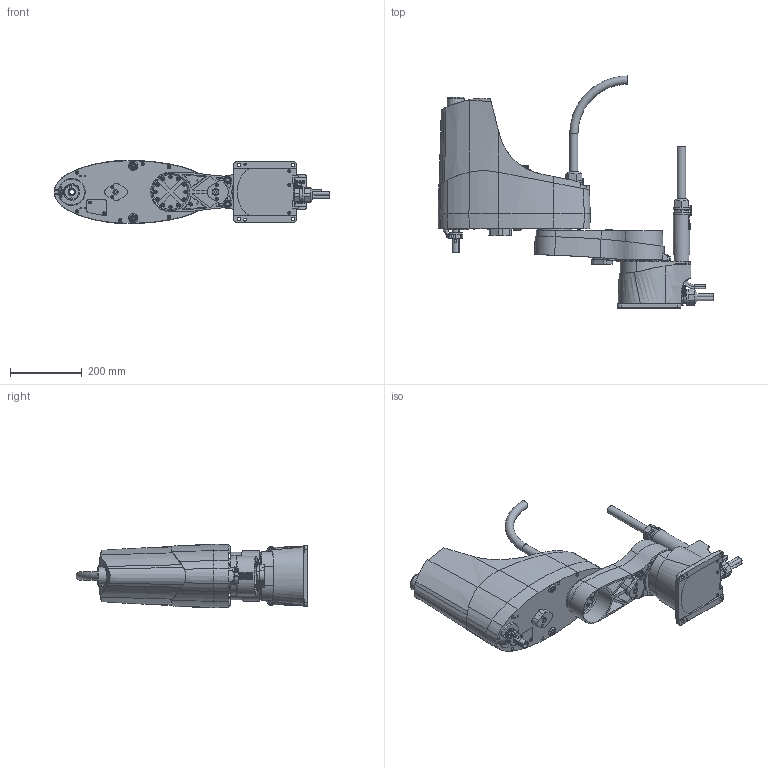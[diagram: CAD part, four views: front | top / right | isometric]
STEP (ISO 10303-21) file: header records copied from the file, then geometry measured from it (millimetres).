
FILE_DESCRIPTION(/* description */ ('STEP AP214'),/* implementation_level */ '2;1');
FILE_NAME(/* name */ 'YK510XE-10-200-C-3L',/* time_stamp */ '2022-07-29T08:43:13+02:00',/* author */ ('License CC BY-ND 4.0'),/* organization */ ('CADENAS'),/* preprocessor_version */ 'ST-DEVELOPER v18.102',/* originating_system */ 'PARTsolutions',/* authorisation */ ' ');
FILE_SCHEMA (('AUTOMOTIVE_DESIGN {1 0 10303 214 3 1 1}'));
Products named in the file (5): YK510XE-10-200-C-3L; YK510XE-10-200-3L-4; YK510XE-10-200-C-3L-3; YK510XE-10-200-3L-2; YK510XE-10-200-3L-1
Assembly tree (4 placements, depth 2):
  YK510XE-10-200-C-3L
    YK510XE-10-200-3L-4
    YK510XE-10-200-C-3L-3
    YK510XE-10-200-3L-2
    YK510XE-10-200-3L-1
Bounding box: 766.88 x 645 x 175.93 mm (x, y, z)
Volume: 17950558.5 mm3; surface area: 979512.2 mm2
Topology: 4 solids, 4 shells, 2349 faces, 5811 edges, 3815 vertices
Faces by surface type: plane 1675, cylinder 459, cone 168, torus 21, bspline 20, sphere 6
Full cylindrical faces by diameter (mm): 2.459 x2, 3.242 x6, 3.3 x8, 4 x10, 5 x2, 5.5 x29, 6 x7, 6.8 x2, 6.94 x1, 7 x34, 7.6 x1, 8 x35, 8.424 x1, 8.5 x13, 9 x21, 9.5 x2, 9.734 x2, 9.8 x1, 10 x13, 10.8 x1, 10.93 x1, 11 x1, 11.8 x3, 12 x1, 12.5 x2, 13 x1, 13.5 x3, 14 x3, 14.5 x2, 16 x1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
Entity records: 84447 total; most frequent: CARTESIAN_POINT 13666, DIRECTION 11215, ORIENTED_EDGE 10774, EDGE_CURVE 5387, VERTEX_POINT 3751, AXIS2_PLACEMENT_3D 3750, LINE 3715, VECTOR 3715
